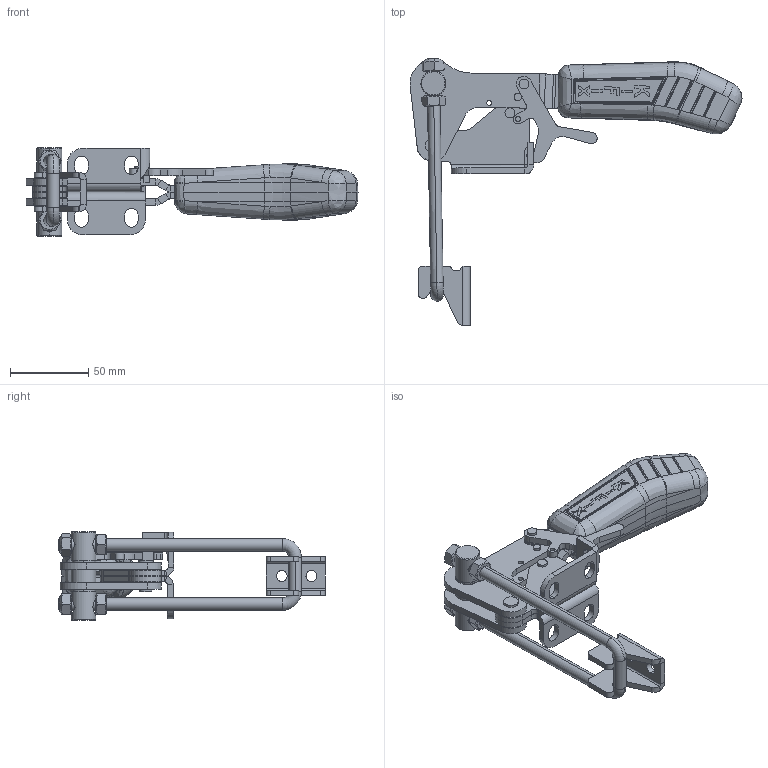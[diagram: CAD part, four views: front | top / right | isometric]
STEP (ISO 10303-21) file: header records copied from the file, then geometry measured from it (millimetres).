
FILE_DESCRIPTION (( 'STEP AP203' ), '1' );
FILE_NAME ('KF-263 DTR.STEP', '2014-08-22T12:22:34', ( 'Ricardo' ), ( '' ), 'SwSTEP 2.0', 'SolidWorks 2013', '' );
FILE_SCHEMA (( 'CONFIG_CONTROL_DESIGN' ));
Length unit declared in the file: millimetre
Products named in the file (17): 02.12094_Direita; 06.50030; 02.12054_Esquerda; 06.50026; 01.10136_Montagem; 07.60003; 01.10136_Esquerda; 18.10021; 16.20038; 17.50007; 03.20029; 3670000104; 11.50017; 3670000092; 11.50002; KF-263 DTR; 15.10030
Assembly tree (19 placements, depth 2):
  KF-263 DTR
    02.12094_Direita
    02.12054_Esquerda
    01.10136_Montagem
    01.10136_Esquerda
    16.20038
    03.20029
    11.50017  x2
    11.50002  x2
    15.10030
    06.50030
    06.50026
    07.60003
    18.10021
    17.50007  x2
    3670000104
    3670000092
Bounding box: 212.61 x 170.96 x 56.5 mm (x, y, z)
Volume: 205281.7 mm3; surface area: 83724.3 mm2
Topology: 19 solids, 19 shells, 809 faces, 2032 edges, 1271 vertices
Faces by surface type: plane 285, cylinder 265, bspline 148, cone 56, sphere 48, torus 7
Entity records: 28696 total; most frequent: CARTESIAN_POINT 9887, ORIENTED_EDGE 3796, DIRECTION 3149, EDGE_CURVE 1898, AXIS2_PLACEMENT_3D 1225, VERTEX_POINT 1195, EDGE_LOOP 845, ADVANCED_FACE 761
